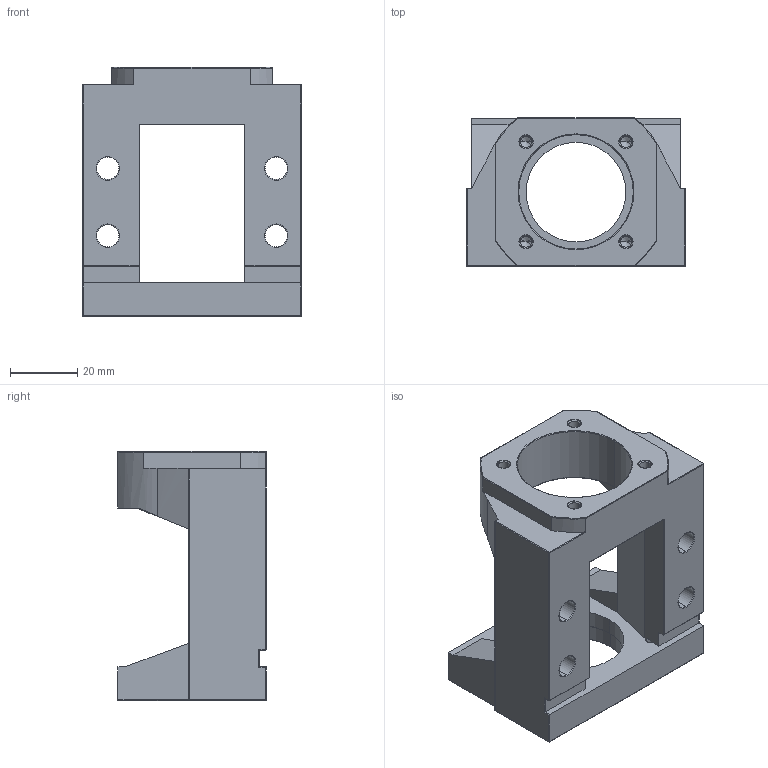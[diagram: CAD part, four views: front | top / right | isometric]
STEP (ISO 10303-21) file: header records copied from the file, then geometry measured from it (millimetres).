
FILE_DESCRIPTION (( 'STEP AP203' ), '1' );
FILE_NAME ('MBA10-A.STEP', '2017-12-28T05:59:29', ( '' ), ( '' ), 'SwSTEP 2.0', 'SolidWorks 2017', '' );
FILE_SCHEMA (( 'CONFIG_CONTROL_DESIGN' ));
Length unit declared in the file: millimetre
Products named in the file (1): MBA10-A
Bounding box: 65 x 44 x 74 mm (x, y, z)
Volume: 78489.6 mm3; surface area: 24049.7 mm2
Topology: 1 solids, 1 shells, 207 faces, 508 edges, 286 vertices
Faces by surface type: cylinder 88, plane 39, torus 38, cone 28, sphere 10, bspline 4
Entity records: 6128 total; most frequent: CARTESIAN_POINT 1261, DIRECTION 1068, ORIENTED_EDGE 972, EDGE_CURVE 486, AXIS2_PLACEMENT_3D 428, VERTEX_POINT 286, EDGE_LOOP 234, CIRCLE 224
